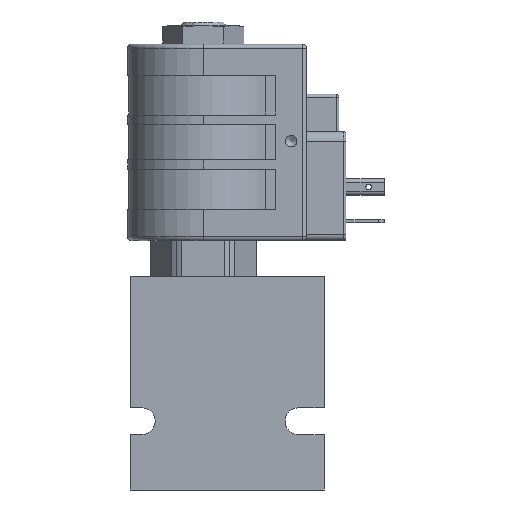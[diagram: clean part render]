
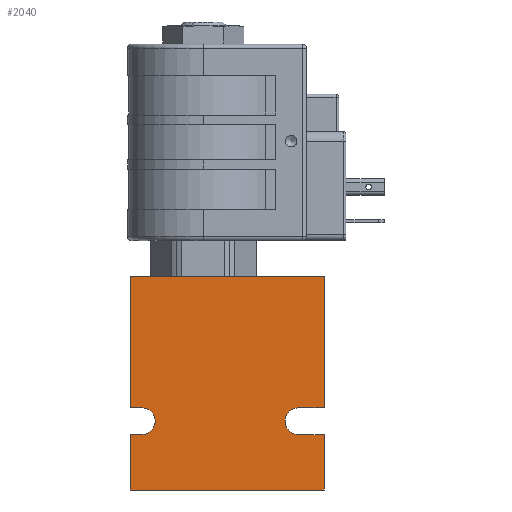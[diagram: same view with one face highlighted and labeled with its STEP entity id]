
A CAD part, front view. The second image highlights one B-rep face of the part: STEP entity #2040.
In plain terms, the highlighted planar face has unit normal (0, -1, 0).
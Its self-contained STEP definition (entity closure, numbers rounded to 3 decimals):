
#2040 = ADVANCED_FACE( '', ( #4161 ), #4162, .T. );
#4161 = FACE_OUTER_BOUND( '', #6491, .T. );
#4162 = PLANE( '', #6492 );
#6491 = EDGE_LOOP( '', ( #12001, #12002, #12003, #12004, #12005, #12006, #12007, #12008, #12009, #12010, #12011, #12012 ) );
#6492 = AXIS2_PLACEMENT_3D( '', #12013, #12014, #12015 );
#12001 = ORIENTED_EDGE( '', *, *, #14937, .F. );
#12002 = ORIENTED_EDGE( '', *, *, #15437, .F. );
#12003 = ORIENTED_EDGE( '', *, *, #15093, .F. );
#12004 = ORIENTED_EDGE( '', *, *, #14770, .F. );
#12005 = ORIENTED_EDGE( '', *, *, #14231, .F. );
#12006 = ORIENTED_EDGE( '', *, *, #15154, .F. );
#12007 = ORIENTED_EDGE( '', *, *, #15859, .F. );
#12008 = ORIENTED_EDGE( '', *, *, #15202, .F. );
#12009 = ORIENTED_EDGE( '', *, *, #14566, .F. );
#12010 = ORIENTED_EDGE( '', *, *, #15884, .F. );
#12011 = ORIENTED_EDGE( '', *, *, #14828, .F. );
#12012 = ORIENTED_EDGE( '', *, *, #13998, .F. );
#12013 = CARTESIAN_POINT( '', ( 44., 0., -38. ) );
#12014 = DIRECTION( '', ( 0., -1., 0. ) );
#12015 = DIRECTION( '', ( 0., 0., -1. ) );
#13998 = EDGE_CURVE( '', #17106, #17107, #17108, .T. );
#14231 = EDGE_CURVE( '', #17524, #17525, #17526, .T. );
#14566 = EDGE_CURVE( '', #18075, #18076, #18077, .T. );
#14770 = EDGE_CURVE( '', #17525, #18408, #18409, .T. );
#14828 = EDGE_CURVE( '', #17107, #18505, #18506, .T. );
#14937 = EDGE_CURVE( '', #18682, #17106, #18683, .T. );
#15093 = EDGE_CURVE( '', #18408, #18936, #18937, .T. );
#15154 = EDGE_CURVE( '', #19035, #17524, #19036, .T. );
#15202 = EDGE_CURVE( '', #18076, #19115, #19116, .T. );
#15437 = EDGE_CURVE( '', #18936, #18682, #19475, .T. );
#15859 = EDGE_CURVE( '', #19115, #19035, #20088, .T. );
#15884 = EDGE_CURVE( '', #18505, #18075, #20123, .T. );
#17106 = VERTEX_POINT( '', #22362 );
#17107 = VERTEX_POINT( '', #22363 );
#17108 = LINE( '', #22364, #22365 );
#17524 = VERTEX_POINT( '', #23683 );
#17525 = VERTEX_POINT( '', #23684 );
#17526 = LINE( '', #23685, #23686 );
#18075 = VERTEX_POINT( '', #24840 );
#18076 = VERTEX_POINT( '', #24841 );
#18077 = CIRCLE( '', #24842, 3.5 );
#18408 = VERTEX_POINT( '', #25801 );
#18409 = LINE( '', #25802, #25803 );
#18505 = VERTEX_POINT( '', #26073 );
#18506 = LINE( '', #26074, #26075 );
#18682 = VERTEX_POINT( '', #26591 );
#18683 = LINE( '', #26592, #26593 );
#18936 = VERTEX_POINT( '', #27107 );
#18937 = CIRCLE( '', #27108, 3.5 );
#19035 = VERTEX_POINT( '', #27299 );
#19036 = LINE( '', #27300, #27301 );
#19115 = VERTEX_POINT( '', #27427 );
#19116 = LINE( '', #27428, #27429 );
#19475 = LINE( '', #28263, #28264 );
#20088 = LINE( '', #30041, #30042 );
#20123 = LINE( '', #30121, #30122 );
#22362 = CARTESIAN_POINT( '', ( 0., 0., 0. ) );
#22363 = CARTESIAN_POINT( '', ( 50.8, 0., 0. ) );
#22364 = CARTESIAN_POINT( '', ( 0., 0., 0. ) );
#22365 = VECTOR( '', #32871, 1000. );
#23683 = CARTESIAN_POINT( '', ( 0., 0., -56. ) );
#23684 = CARTESIAN_POINT( '', ( 0., 0., -41.5 ) );
#23685 = CARTESIAN_POINT( '', ( 0., 0., -56. ) );
#23686 = VECTOR( '', #33058, 1000. );
#24840 = CARTESIAN_POINT( '', ( 44., 0., -34.5 ) );
#24841 = CARTESIAN_POINT( '', ( 44., 0., -41.5 ) );
#24842 = AXIS2_PLACEMENT_3D( '', #33365, #33366, #33367 );
#25801 = CARTESIAN_POINT( '', ( 3., 0., -41.5 ) );
#25802 = CARTESIAN_POINT( '', ( 3., 0., -41.5 ) );
#25803 = VECTOR( '', #33524, 1000. );
#26073 = CARTESIAN_POINT( '', ( 50.8, 0., -34.5 ) );
#26074 = CARTESIAN_POINT( '', ( 50.8, 0., 0. ) );
#26075 = VECTOR( '', #33568, 1000. );
#26591 = CARTESIAN_POINT( '', ( 0., 0., -34.5 ) );
#26592 = CARTESIAN_POINT( '', ( 0., 0., -34.5 ) );
#26593 = VECTOR( '', #33683, 1000. );
#27107 = CARTESIAN_POINT( '', ( 3., 0., -34.5 ) );
#27108 = AXIS2_PLACEMENT_3D( '', #33843, #33844, #33845 );
#27299 = CARTESIAN_POINT( '', ( 50.8, 0., -56. ) );
#27300 = CARTESIAN_POINT( '', ( 50.8, 0., -56. ) );
#27301 = VECTOR( '', #33922, 1000. );
#27427 = CARTESIAN_POINT( '', ( 50.8, 0., -41.5 ) );
#27428 = CARTESIAN_POINT( '', ( 44., 0., -41.5 ) );
#27429 = VECTOR( '', #33945, 1000. );
#28263 = CARTESIAN_POINT( '', ( 3., 0., -34.5 ) );
#28264 = VECTOR( '', #34141, 1000. );
#30041 = CARTESIAN_POINT( '', ( 50.8, 0., -41.5 ) );
#30042 = VECTOR( '', #34457, 1000. );
#30121 = CARTESIAN_POINT( '', ( 44., 0., -34.5 ) );
#30122 = VECTOR( '', #34480, 1000. );
#32871 = DIRECTION( '', ( 1., 0., 0. ) );
#33058 = DIRECTION( '', ( 0., 0., 1. ) );
#33365 = CARTESIAN_POINT( '', ( 44., 0., -38. ) );
#33366 = DIRECTION( '', ( 0., -1., 0. ) );
#33367 = DIRECTION( '', ( 1., 0., 0. ) );
#33524 = DIRECTION( '', ( 1., 0., 0. ) );
#33568 = DIRECTION( '', ( 0., 0., -1. ) );
#33683 = DIRECTION( '', ( 0., 0., 1. ) );
#33843 = CARTESIAN_POINT( '', ( 3., 0., -38. ) );
#33844 = DIRECTION( '', ( 0., -1., 0. ) );
#33845 = DIRECTION( '', ( -1., 0., 0. ) );
#33922 = DIRECTION( '', ( -1., 0., 0. ) );
#33945 = DIRECTION( '', ( 1., 0., 0. ) );
#34141 = DIRECTION( '', ( -1., 0., 0. ) );
#34457 = DIRECTION( '', ( 0., 0., -1. ) );
#34480 = DIRECTION( '', ( -1., 0., 0. ) );
